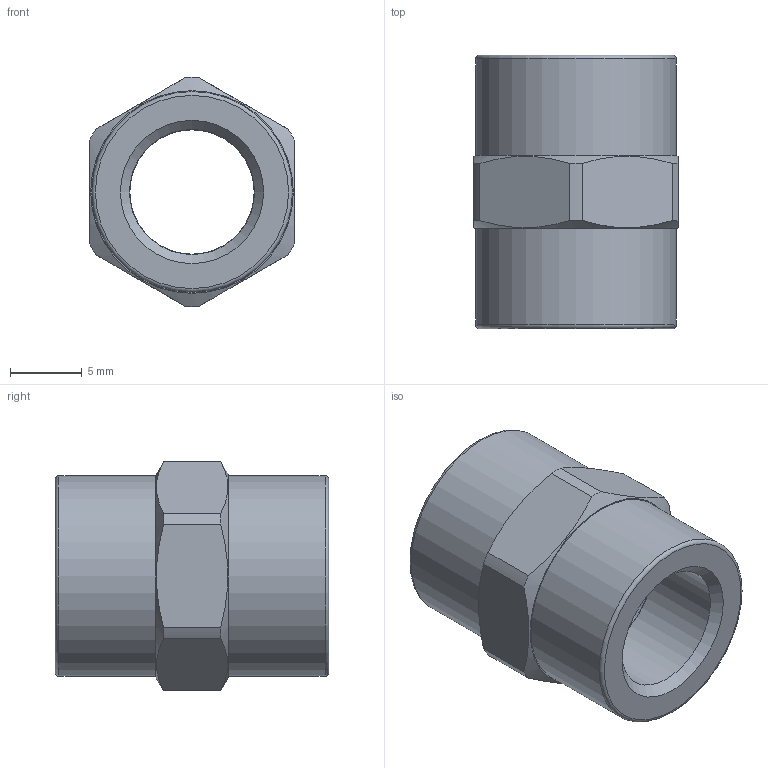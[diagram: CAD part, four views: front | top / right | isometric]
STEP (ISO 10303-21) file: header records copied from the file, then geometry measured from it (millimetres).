
FILE_DESCRIPTION(/* description */ (''),/* implementation_level */ '2;1');
FILE_NAME(/* name */ 'C:/Users/drich/Desktop/C-18 v1.step',/* time_stamp */ '2020-02-09T10:56:06-06:00',/* author */ (''),/* organization */ (''),/* preprocessor_version */ 'ST-DEVELOPER v18',/* originating_system */ 'Autodesk Translation Framework v8.12.0.6',/* authorisation */ '');
FILE_SCHEMA (('AUTOMOTIVE_DESIGN { 1 0 10303 214 3 1 1 }'));
Length unit declared in the file: inch
Products named in the file (1): C-18
Bounding box: 14.27 x 19.05 x 16 mm (x, y, z)
Volume: 1883.1 mm3; surface area: 1566.6 mm2
Topology: 1 solids, 1 shells, 29 faces, 77 edges, 54 vertices
Faces by surface type: plane 12, cylinder 11, cone 4, torus 2
Full cylindrical faces by diameter (mm): 8.661 x1, 8.712 x2, 13.97 x2
Entity records: 973 total; most frequent: CARTESIAN_POINT 185, DIRECTION 169, ORIENTED_EDGE 154, EDGE_CURVE 77, AXIS2_PLACEMENT_3D 74, VERTEX_POINT 54, CIRCLE 44, EDGE_LOOP 35
